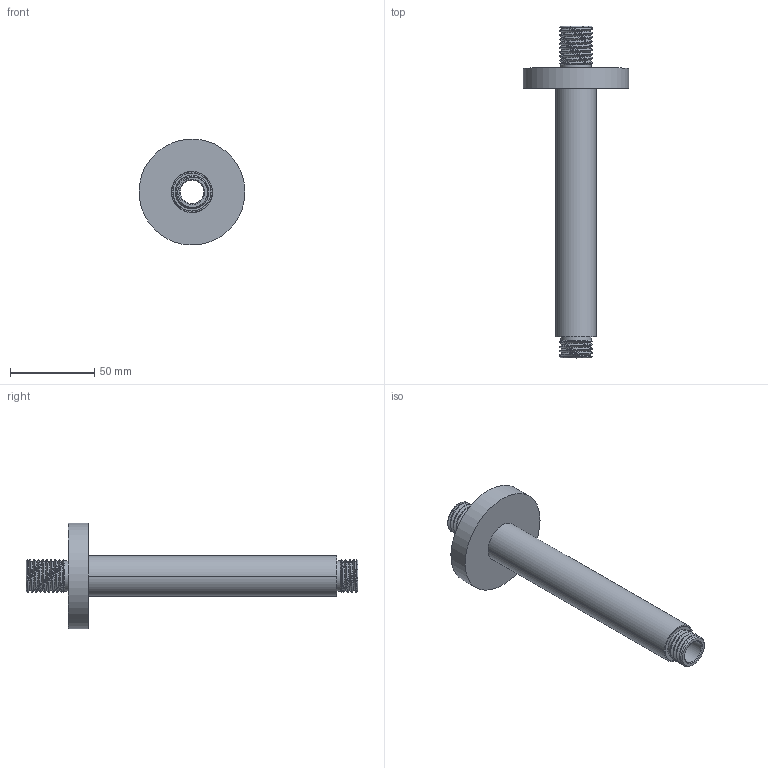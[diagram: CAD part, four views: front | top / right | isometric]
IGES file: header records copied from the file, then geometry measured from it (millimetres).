
Global section: file name: cd791dae-f59d-4d7a-a3fc-d8e5b0c56f3b; native system: unknown; preprocessor: unknown; author: unknown; organization: unknown; date: 20191214.205237; units: millimetre
Bounding box: 62.98 x 197.5 x 62.94 mm (x, y, z)
Volume: 23913.7 mm3; surface area: 41425.2 mm2
Topology: 5 solids, 5 shells, 60 faces, 137 edges, 95 vertices
Faces by surface type: bspline 60
